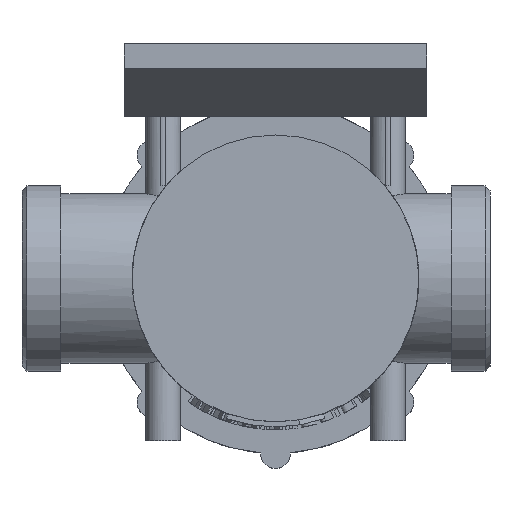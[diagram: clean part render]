
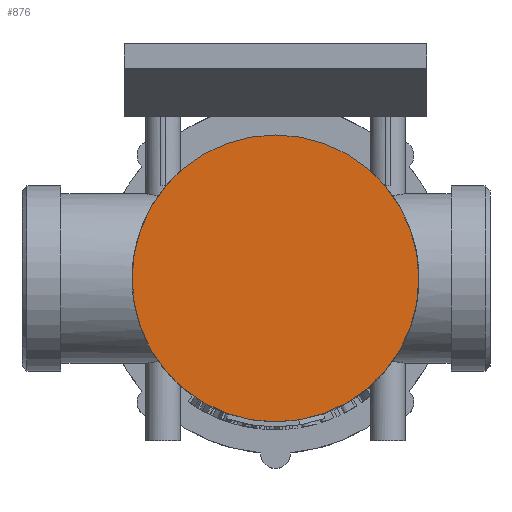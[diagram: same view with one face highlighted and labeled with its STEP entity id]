
A CAD part, top view. The second image highlights one B-rep face of the part: STEP entity #876.
In plain terms, the highlighted planar face has unit normal (0, 0, 1).
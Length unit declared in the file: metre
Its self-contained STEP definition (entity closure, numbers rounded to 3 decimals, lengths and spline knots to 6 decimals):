
#876 = ADVANCED_FACE( '', ( #1998 ), #1999, .T. );
#1998 = FACE_OUTER_BOUND( '', #5636, .T. );
#1999 = PLANE( '', #5637 );
#5636 = EDGE_LOOP( '', ( #11471, #11472 ) );
#5637 = AXIS2_PLACEMENT_3D( '', #11473, #11474, #11475 );
#11471 = ORIENTED_EDGE( '', *, *, #13936, .T. );
#11472 = ORIENTED_EDGE( '', *, *, #13930, .T. );
#11473 = CARTESIAN_POINT( '', ( 0.0039, 0., 0.07 ) );
#11474 = DIRECTION( '', ( 0., 0., 1. ) );
#11475 = DIRECTION( '', ( 1., 0., 0. ) );
#13930 = EDGE_CURVE( '', #15974, #15972, #15975, .T. );
#13936 = EDGE_CURVE( '', #15972, #15974, #15985, .T. );
#15972 = VERTEX_POINT( '', #20134 );
#15974 = VERTEX_POINT( '', #20161 );
#15975 = CIRCLE( '', #20162, 0.02875 );
#15985 = CIRCLE( '', #20353, 0.02875 );
#20134 = CARTESIAN_POINT( '', ( 0.03265, 0., 0.07 ) );
#20161 = CARTESIAN_POINT( '', ( -0.02485, 0., 0.07 ) );
#20162 = AXIS2_PLACEMENT_3D( '', #22759, #22760, #22761 );
#20353 = AXIS2_PLACEMENT_3D( '', #22762, #22763, #22764 );
#22759 = CARTESIAN_POINT( '', ( 0.0039, 0., 0.07 ) );
#22760 = DIRECTION( '', ( 0., 0., 1. ) );
#22761 = DIRECTION( '', ( 1., 0., 0. ) );
#22762 = CARTESIAN_POINT( '', ( 0.0039, 0., 0.07 ) );
#22763 = DIRECTION( '', ( 0., 0., 1. ) );
#22764 = DIRECTION( '', ( 1., 0., 0. ) );
